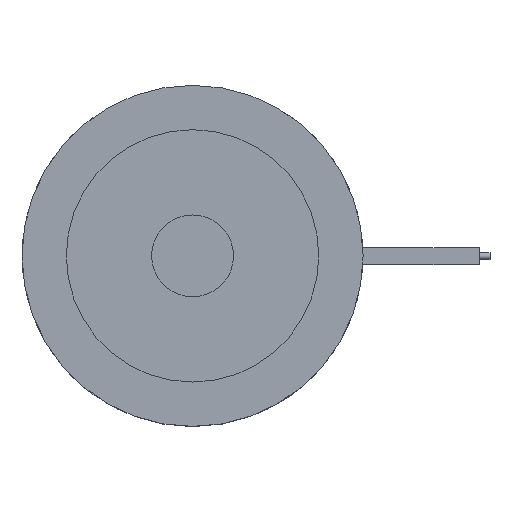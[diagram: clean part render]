
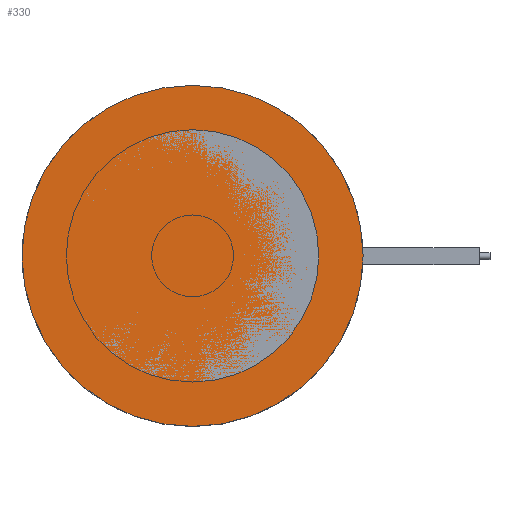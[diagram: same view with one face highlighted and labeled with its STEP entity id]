
A CAD part, top view. The second image highlights one B-rep face of the part: STEP entity #330.
In plain terms, the highlighted planar face has unit normal (0, 0, 1).
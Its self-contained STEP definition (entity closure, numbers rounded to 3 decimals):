
#231=PLANE('',#1119);
#265=FACE_OUTER_BOUND('',#497,.T.);
#330=ADVANCED_FACE('',(#265),#231,.F.);
#497=EDGE_LOOP('',(#627));
#627=ORIENTED_EDGE('',*,*,#925,.F.);
#830=VERTEX_POINT('',#1611);
#925=EDGE_CURVE('',#830,#830,#1029,.T.);
#1029=CIRCLE('',#1118,25.);
#1118=AXIS2_PLACEMENT_3D('',#1610,#1311,#1312);
#1119=AXIS2_PLACEMENT_3D('',#1612,#1313,#1314);
#1311=DIRECTION('',(0.,0.,-1.));
#1312=DIRECTION('',(-1.,0.,0.));
#1313=DIRECTION('',(0.,0.,-1.));
#1314=DIRECTION('',(-1.,0.,0.));
#1610=CARTESIAN_POINT('',(0.,0.,0.));
#1611=CARTESIAN_POINT('',(-25.,0.,0.));
#1612=CARTESIAN_POINT('',(0.,0.,0.));
